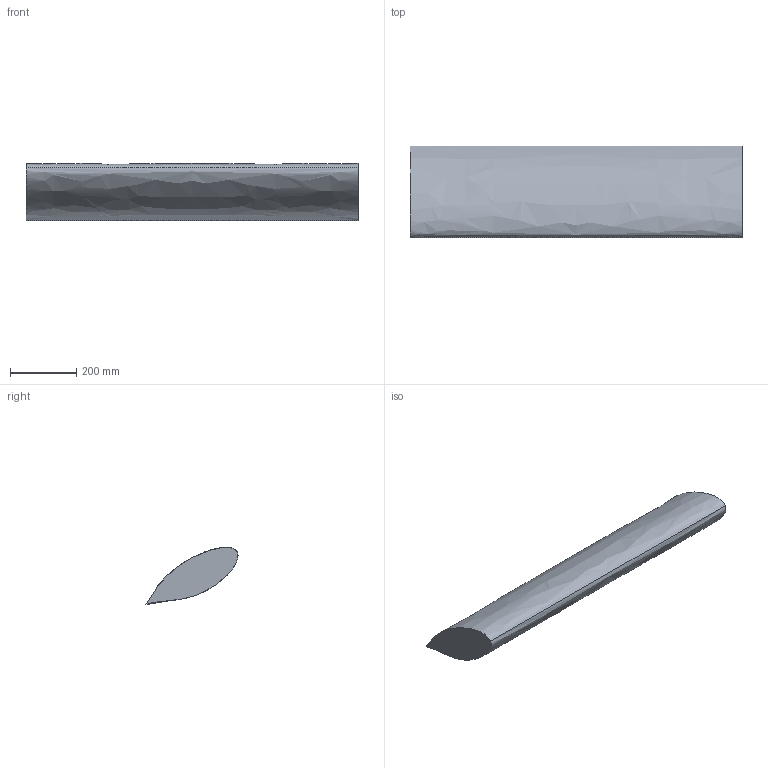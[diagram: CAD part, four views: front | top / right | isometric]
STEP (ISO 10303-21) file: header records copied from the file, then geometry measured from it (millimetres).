
FILE_DESCRIPTION(('CATIA V5 STEP Exchange'),'2;1');
FILE_NAME('C:\Users\andres.garcia\OneDrive - IQS\ASIGNATURAS\DAO\EXF\EXF-22223c\2inicio\Ej08-GARCIA_Andres.stp','2023-02-26T13:30:09+00:00',('none'),('none'),'CATIA Version 5-6 Release 2013 SP6','CATIA V5 STEP AP203','none');
FILE_SCHEMA(('CONFIG_CONTROL_DESIGN'));
Length unit declared in the file: millimetre
Products named in the file (1): Ej08-GARCIA_Andres
Bounding box: 1000 x 277.14 x 172 mm (x, y, z)
Volume: 23710088.8 mm3; surface area: 740394.3 mm2
Topology: 1 solids, 1 shells, 4 faces, 6 edges, 4 vertices
Faces by surface type: extrusion 2, plane 2
Entity records: 171 total; most frequent: CARTESIAN_POINT 63, ORIENTED_EDGE 12, DIRECTION 8, B_SPLINE_CURVE_WITH_KNOTS 6, EDGE_CURVE 6, VECTOR 4, ADVANCED_FACE 4, CC_DESIGN_PERSON_AND_ORGANIZATION_ASSIGNMENT 4
